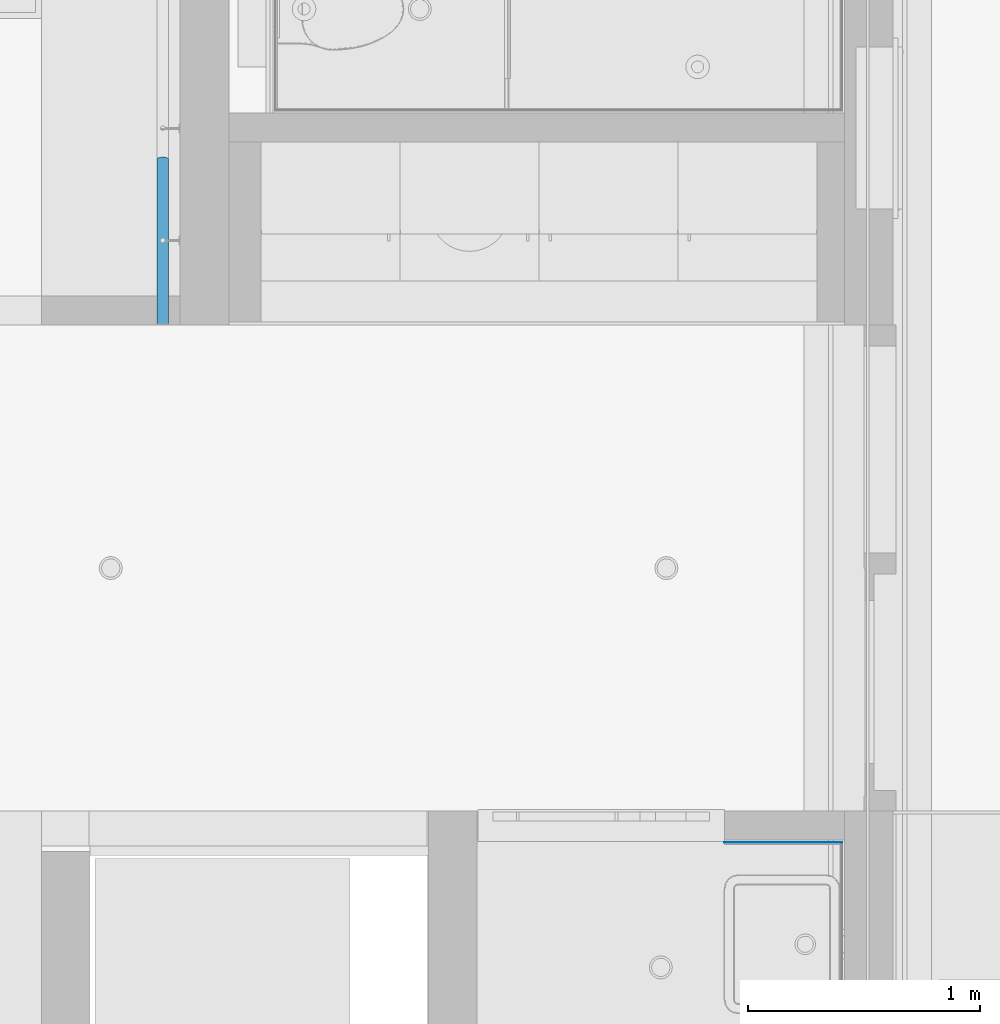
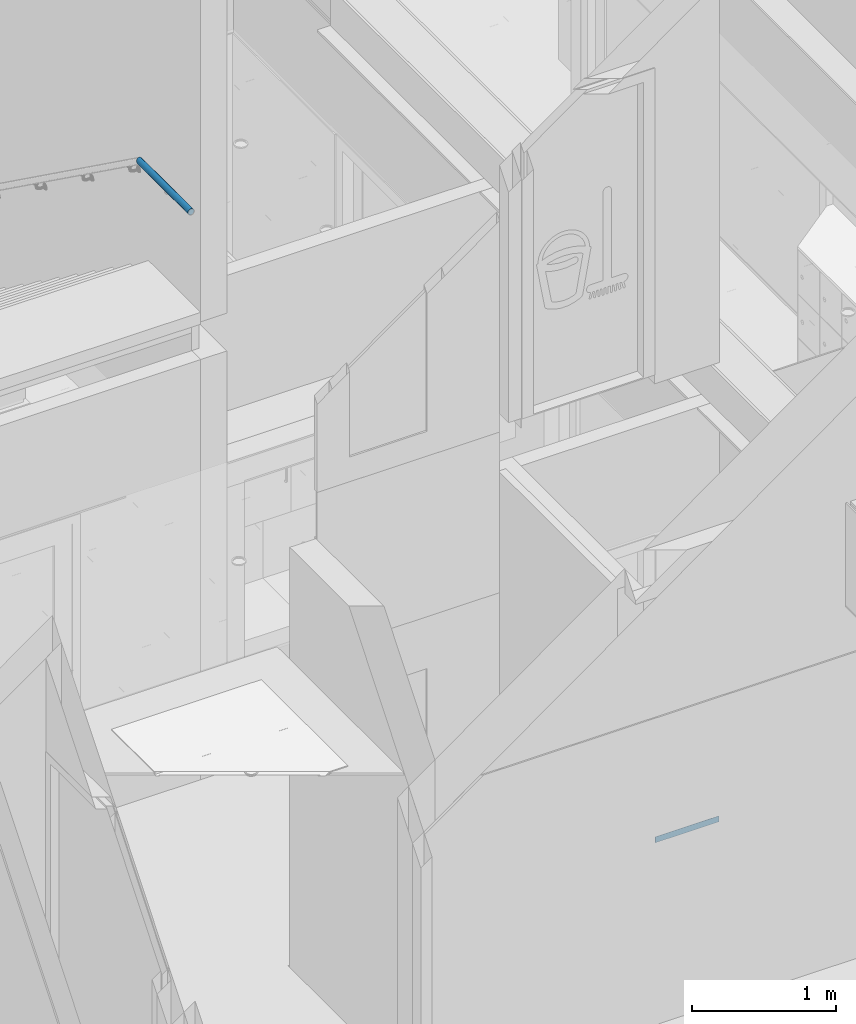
# One storey, part 138 of 347: 2 building element parts, 3 elements without a shape of their own.
"""IFC2X3 building model written with IfcOpenShell, lengths in millimetres."""

from ifc_helpers import new_model, entity, si_unit, converted_unit, derived_unit, money_unit, direction, frame, origin_with_axes, place, context, subcontext, project, spatial, faceted_brep, material, type_object, element, aggregate, save


model = new_model("IFC2X3")

# Units and contexts
model_context = context("Model", 3, precision=0.01, world=origin_with_axes(), true_north=direction((0.0, 1.0)))
plan_context = context("Plan", 3, precision=0.01, world=origin_with_axes(), true_north=direction((0.0, 1.0)))
body_context = subcontext(model_context, "Body", "Model", "MODEL_VIEW")
ifc_project = project(units=[si_unit("LENGTHUNIT", "METRE", prefix="MILLI"), si_unit("AREAUNIT", "SQUARE_METRE"), si_unit("VOLUMEUNIT", "CUBIC_METRE"), converted_unit("PLANEANGLEUNIT", "DEGREE", entity("IfcPlaneAngleMeasure", 0.0174532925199), si_unit("PLANEANGLEUNIT", "RADIAN"), dimensions=[0, 0, 0, 0, 0, 0, 0]), money_unit("EUR"), converted_unit("TIMEUNIT", "Year", entity("IfcTimeMeasure", 31556926.0), si_unit("TIMEUNIT", "SECOND"), dimensions=[0, 0, 1, 0, 0, 0, 0]), si_unit("MASSUNIT", "GRAM", prefix="KILO"), si_unit("THERMODYNAMICTEMPERATUREUNIT", "DEGREE_CELSIUS"), si_unit("LUMINOUSINTENSITYUNIT", "LUMEN"), si_unit("ENERGYUNIT", "JOULE", prefix="MEGA"), derived_unit("THERMALCONDUCTANCEUNIT", [(si_unit("POWERUNIT", "WATT"), 1), (si_unit("LENGTHUNIT", "METRE"), -1), (si_unit("THERMODYNAMICTEMPERATUREUNIT", "KELVIN"), -1)]), derived_unit("SPECIFICHEATCAPACITYUNIT", [(si_unit("ENERGYUNIT", "JOULE"), 1), (si_unit("MASSUNIT", "GRAM", prefix="KILO"), -1), (si_unit("THERMODYNAMICTEMPERATUREUNIT", "KELVIN"), -1)]), derived_unit("MASSDENSITYUNIT", [(si_unit("MASSUNIT", "GRAM", prefix="KILO"), 1), (si_unit("VOLUMEUNIT", "CUBIC_METRE"), -1)])], contexts=[model_context, plan_context])

# Site, building, storey
site_placement = place(None, origin_with_axes())
site = spatial("IfcSite", under=ifc_project, at=site_placement, Name="Site", CompositionType="ELEMENT")
building_placement = place(site_placement, origin_with_axes())
building = spatial("IfcBuilding", under=site, at=building_placement, Name="Naam gebouw", CompositionType="ELEMENT")
storey_placement = place(building_placement, origin_with_axes())
storey = spatial("IfcBuildingStorey", under=building, at=storey_placement, Name="begane grond", CompositionType="ELEMENT", Elevation=0.0)

# Proxy, building element part
building_element_proxy_type = type_object("IfcBuildingElementProxyType", Name="wandtegels 150x300 2600+ 10 x 2600", PredefinedType="NOTDEFINED")
proxy_placement = place(storey_placement, frame((43926.0, 27830.0, 0.0), z_axis=(0.0, 0.0, 1.0), x_axis=(1.0, 0.0, 0.0)))
proxy = element("IfcBuildingElementProxy", 1, at=proxy_placement, inside=storey, type_object=building_element_proxy_type, Name="42_51 wandtegels keramisch")
ifc_material_1 = material(Name="48 vloeivloer Bolidt")
building_element_part_1_placement = place(proxy_placement, origin_with_axes())
building_element_part_1 = element("IfcBuildingElementPart", 2, at=building_element_part_1_placement, material=ifc_material_1, Name="48 vloeivloer Bolidt", context=body_context, shape_type="Brep", body=[
    faceted_brep([(508.99999702, 8.00001490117, 50.0000059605), (508.99999702, 10.0000089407, 50.0000059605), (0.0, 10.0000089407, 50.0000059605), (0.0, 8.00001490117, 50.0000059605), (508.99999702, 10.0000089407, 0.0), (508.99999702, 8.00001490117, 0.0), (0.0, 10.0000089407, 0.0), (0.0, 8.00001490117, 0.0)], [[[0, 1, 2, 3]], [[4, 1, 0, 5]], [[1, 4, 6, 2]], [[2, 6, 7, 3]], [[5, 0, 3, 7]], [[4, 5, 7, 6]]]),
])
aggregate(proxy, [building_element_part_1])

# Railing, member, building element part
railing_type = type_object("IfcRailingType", Name="Railing Type", PredefinedType="NOTDEFINED")
railing_placement = place(storey_placement, frame((41575.0, 36499.9999823, 72.0000018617), z_axis=(0.0, 0.0, 1.0), x_axis=(1.0, 0.0, 0.0)))
railing = element("IfcRailing", 3, at=railing_placement, inside=storey, type_object=railing_type, Name="_Reling-x", PredefinedType="NOTDEFINED")
member_type = type_object("IfcMemberType", Name="IfcMember", PredefinedType="USERDEFINED")
member_placement = place(railing_placement, frame((-75.0, -6059.89034064, 4732.0982987), z_axis=(0.0, 0.0, 1.0), x_axis=(1.0, 0.0, 0.0)))
member = element("IfcMember", 4, at=member_placement, type_object=member_type, Name="_Handregel-x")
aggregate(railing, [member])
ifc_material_2 = material(Name="Hout AFW")
building_element_part_2_placement = place(member_placement, origin_with_axes())
building_element_part_2 = element("IfcBuildingElementPart", 5, at=building_element_part_2_placement, material=ifc_material_2, Name="Hout AFW", context=body_context, shape_type="Brep", body=[
    faceted_brep([(25.0, 351.826686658, 30.9016994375), (24.6201938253, 353.226928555, 35.2429038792), (24.6201938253, -359.890358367, 35.2429038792), (25.0, -359.890358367, 30.9016994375), (24.6201938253, 350.42644476, 26.5604949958), (23.4923155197, 349.068748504, 22.3511958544), (21.6506350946, 347.794850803, 18.4016994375), (19.151111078, 346.643458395, 14.8320091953), (16.0696902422, 345.649555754, 11.7505883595), (12.5, 344.84334211, 9.25106434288), (8.55050358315, 344.249313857, 7.40938391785), (4.34120444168, 343.885520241, 6.28150561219), (0.0, 343.763014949, 5.9016994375), (-4.34120444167, 343.885520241, 6.28150561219), (-8.55050358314, 344.249313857, 7.40938391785), (-12.5, 344.84334211, 9.25106434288), (-16.0696902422, 345.649555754, 11.7505883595), (-19.151111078, 346.643458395, 14.8320091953), (-21.6506350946, 347.794850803, 18.4016994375), (-23.4923155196, 349.068748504, 22.3511958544), (-24.6201938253, 350.42644476, 26.5604949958), (-25.0, 351.826686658, 30.9016994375), (-24.6201938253, 353.226928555, 35.2429038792), (-23.4923155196, 354.584624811, 39.4522030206), (-21.6506350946, 355.858522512, 43.4016994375), (-19.151111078, 357.009914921, 46.9713896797), (-16.0696902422, 358.003817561, 50.0528105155), (-12.5, 358.810031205, 52.5523345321), (-8.55050358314, 359.404059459, 54.3940149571), (-4.34120444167, 359.767853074, 55.5218932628), (0.0, 359.890358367, 55.9016994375), (4.34120444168, 359.767853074, 55.5218932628), (8.55050358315, 359.404059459, 54.3940149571), (12.5, 358.810031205, 52.5523345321), (16.0696902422, 358.003817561, 50.0528105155), (19.151111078, 357.009914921, 46.9713896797), (21.6506350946, 355.858522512, 43.4016994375), (23.4923155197, 354.584624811, 39.4522030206), (23.4923155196, -359.890358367, 39.4522030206), (21.6506350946, -359.890358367, 43.4016994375), (19.151111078, -359.890358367, 46.9713896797), (16.0696902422, -359.890358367, 50.0528105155), (12.5, -359.890358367, 52.5523345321), (8.55050358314, -359.890358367, 54.3940149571), (4.34120444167, -359.890358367, 55.5218932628), (0.0, -359.890358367, 55.9016994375), (-4.34120444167, -359.890358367, 55.5218932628), (-8.55050358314, -359.890358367, 54.3940149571), (-12.5, -359.890358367, 52.5523345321), (-16.0696902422, -359.890358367, 50.0528105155), (-19.151111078, -359.890358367, 46.9713896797), (-21.6506350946, -359.890358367, 43.4016994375), (-23.4923155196, -359.890358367, 39.4522030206), (-24.6201938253, -359.890358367, 35.2429038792), (-25.0, -359.890358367, 30.9016994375), (-24.6201938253, -359.890358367, 26.5604949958), (-23.4923155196, -359.890358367, 22.3511958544), (-21.6506350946, -359.890358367, 18.4016994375), (-19.151111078, -359.890358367, 14.8320091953), (-16.0696902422, -359.890358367, 11.7505883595), (-12.5, -359.890358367, 9.25106434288), (-8.55050358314, -359.890358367, 7.40938391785), (-4.34120444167, -359.890358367, 6.28150561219), (0.0, -359.890358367, 5.9016994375), (4.34120444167, -359.890358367, 6.28150561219), (8.55050358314, -359.890358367, 7.40938391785), (12.5, -359.890358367, 9.25106434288), (16.0696902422, -359.890358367, 11.7505883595), (19.151111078, -359.890358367, 14.8320091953), (21.6506350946, -359.890358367, 18.4016994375), (23.4923155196, -359.890358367, 22.3511958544), (24.6201938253, -359.890358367, 26.5604949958)], [[[0, 1, 2, 3]], [[0, 4, 5, 6, 7, 8, 9, 10, 11, 12, 13, 14, 15, 16, 17, 18, 19, 20, 21, 22, 23, 24, 25, 26, 27, 28, 29, 30, 31, 32, 33, 34, 35, 36, 37, 1]], [[1, 37, 38, 2]], [[3, 2, 38, 39, 40, 41, 42, 43, 44, 45, 46, 47, 48, 49, 50, 51, 52, 53, 54, 55, 56, 57, 58, 59, 60, 61, 62, 63, 64, 65, 66, 67, 68, 69, 70, 71]], [[4, 0, 3, 71]], [[5, 4, 71, 70]], [[6, 5, 70, 69]], [[7, 6, 69, 68]], [[8, 7, 68, 67]], [[9, 8, 67, 66]], [[10, 9, 66, 65]], [[11, 10, 65, 64]], [[12, 11, 64, 63]], [[13, 12, 63, 62]], [[14, 13, 62, 61]], [[15, 14, 61, 60]], [[16, 15, 60, 59]], [[17, 16, 59, 58]], [[18, 17, 58, 57]], [[19, 18, 57, 56]], [[20, 19, 56, 55]], [[21, 20, 55, 54]], [[22, 21, 54, 53]], [[23, 22, 53, 52]], [[24, 23, 52, 51]], [[25, 24, 51, 50]], [[26, 25, 50, 49]], [[27, 26, 49, 48]], [[28, 27, 48, 47]], [[29, 28, 47, 46]], [[30, 29, 46, 45]], [[31, 30, 45, 44]], [[32, 31, 44, 43]], [[33, 32, 43, 42]], [[34, 33, 42, 41]], [[35, 34, 41, 40]], [[36, 35, 40, 39]], [[37, 36, 39, 38]]]),
])
aggregate(member, [building_element_part_2])

save(model, "model.ifc")
